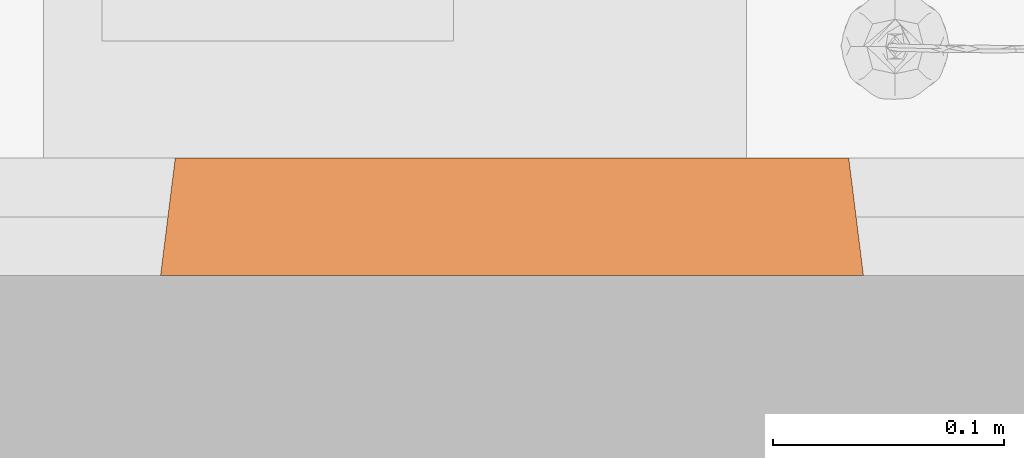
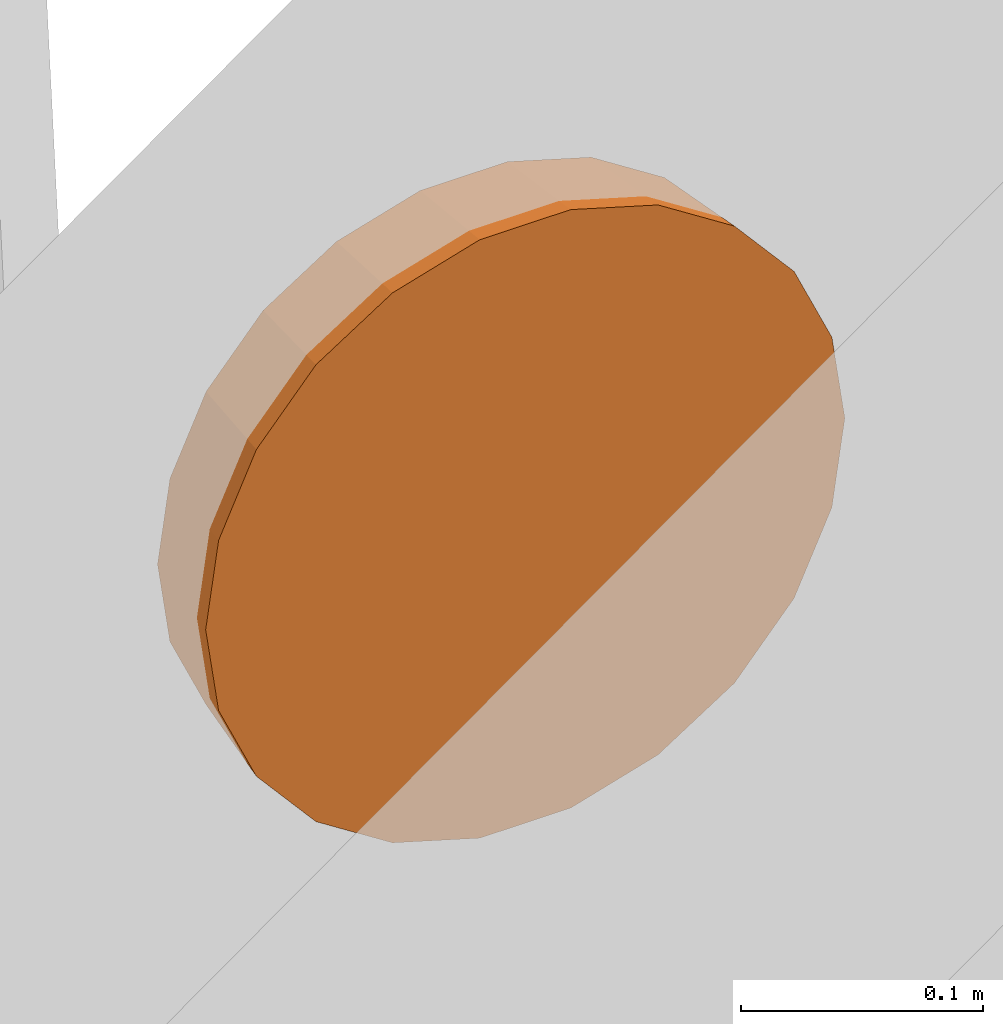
# One storey, part 90 of 142: 1 proxy.
"""IFC2X3 building model written with IfcOpenShell, lengths in feet."""

from ifc_helpers import new_model, entity, si_unit, converted_unit, derived_unit, direction, frame, origin, place, context, subcontext, project, spatial, faceted_brep, source, transform, mapped, type_object, type_shapes, element, save


model = new_model("IFC2X3")

# Units and contexts
model_context = context("Model", 3, precision=0.0001, world=origin(), true_north=direction((6.12303176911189e-17, 1.0)))
body_context = subcontext(model_context, "Body", "Model", "MODEL_VIEW")
ifc_project = project(units=[converted_unit("LENGTHUNIT", "FOOT", entity("IfcRatioMeasure", 0.3048), si_unit("LENGTHUNIT", "METRE"), dimensions=[1, 0, 0, 0, 0, 0, 0]), converted_unit("AREAUNIT", "SQUARE FOOT", entity("IfcRatioMeasure", 0.09290304), si_unit("AREAUNIT", "SQUARE_METRE"), dimensions=[2, 0, 0, 0, 0, 0, 0]), converted_unit("VOLUMEUNIT", "CUBIC FOOT", entity("IfcRatioMeasure", 0.028316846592), si_unit("VOLUMEUNIT", "CUBIC_METRE"), dimensions=[3, 0, 0, 0, 0, 0, 0]), converted_unit("PLANEANGLEUNIT", "DEGREE", entity("IfcRatioMeasure", 0.0174532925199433), si_unit("PLANEANGLEUNIT", "RADIAN"), dimensions=[0, 0, 0, 0, 0, 0, 0]), si_unit("MASSUNIT", "GRAM", prefix="KILO"), derived_unit("MASSDENSITYUNIT", [(si_unit("MASSUNIT", "GRAM", prefix="KILO"), 1), (si_unit("LENGTHUNIT", "METRE"), -3)]), si_unit("TIMEUNIT", "SECOND"), si_unit("FREQUENCYUNIT", "HERTZ"), si_unit("THERMODYNAMICTEMPERATUREUNIT", "DEGREE_CELSIUS"), derived_unit("THERMALTRANSMITTANCEUNIT", [(si_unit("MASSUNIT", "GRAM", prefix="KILO"), 1), (si_unit("THERMODYNAMICTEMPERATUREUNIT", "KELVIN"), -1), (si_unit("TIMEUNIT", "SECOND"), -3)]), derived_unit("VOLUMETRICFLOWRATEUNIT", [(si_unit("LENGTHUNIT", "METRE"), 3), (si_unit("TIMEUNIT", "SECOND"), -1)]), si_unit("ELECTRICCURRENTUNIT", "AMPERE"), si_unit("ELECTRICVOLTAGEUNIT", "VOLT"), si_unit("POWERUNIT", "WATT"), si_unit("FORCEUNIT", "NEWTON"), si_unit("ILLUMINANCEUNIT", "LUX"), si_unit("LUMINOUSFLUXUNIT", "LUMEN"), si_unit("LUMINOUSINTENSITYUNIT", "CANDELA"), derived_unit("USERDEFINED", [(si_unit("MASSUNIT", "GRAM", prefix="KILO"), -1), (si_unit("LENGTHUNIT", "METRE"), -2), (si_unit("TIMEUNIT", "SECOND"), 3), (si_unit("LUMINOUSFLUXUNIT", "LUMEN"), 1)]), derived_unit("LINEARVELOCITYUNIT", [(si_unit("LENGTHUNIT", "METRE"), 1), (si_unit("TIMEUNIT", "SECOND"), -1)]), si_unit("PRESSUREUNIT", "PASCAL"), derived_unit("USERDEFINED", [(si_unit("LENGTHUNIT", "METRE"), -2), (si_unit("MASSUNIT", "GRAM", prefix="KILO"), 1), (si_unit("TIMEUNIT", "SECOND"), -2)])], contexts=[model_context])

# Site, building, storey, space
site_placement = place(None, origin())
site = spatial("IfcSite", under=ifc_project, at=site_placement, Name="Default", CompositionType="ELEMENT")
building_placement = place(site_placement, origin())
building = spatial("IfcBuilding", under=site, at=building_placement, Name="OUTPATIENT / PACT CLINIC (Ch. 265)", CompositionType="ELEMENT")
storey_placement = place(building_placement, origin())
storey = spatial("IfcBuildingStorey", under=building, at=storey_placement, Name="LEVEL 1", CompositionType="ELEMENT", Elevation=0.0)
space_placement = place(storey_placement, origin())
space = spatial("IfcSpace", under=storey, at=space_placement, Name="EXW01", CompositionType="ELEMENT", InteriorOrExteriorSpace="INTERNAL")

# Proxy
building_element_proxy_type = type_object("IfcBuildingElementProxyType", Name="F3200 - Clock, Battery, 12in Dia", PredefinedType="NOTDEFINED")
shared_shape = source(origin(), body_context, "Body", "Brep", [
    faceted_brep([(0.0527623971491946, -0.166666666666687, -0.0087350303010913), (0.143371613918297, -0.166666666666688, 0.0607918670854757), (0.212898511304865, -0.16666666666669, 0.151401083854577), (0.256604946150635, -0.166666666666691, 0.256917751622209), (0.271512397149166, -0.166666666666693, 0.370151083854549), (0.256604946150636, -0.166666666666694, 0.483384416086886), (0.212898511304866, -0.166666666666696, 0.588901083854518), (0.143371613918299, -0.166666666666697, 0.67951030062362), (0.052762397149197, -0.166666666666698, 0.749037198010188), (-0.0527542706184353, -0.166666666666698, 0.792743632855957), (-0.165987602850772, -0.166666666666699, 0.807651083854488), (-0.279220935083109, -0.166666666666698, 0.792743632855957), (-0.384737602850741, -0.166666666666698, 0.749037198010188), (-0.475346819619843, -0.166666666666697, 0.679510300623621), (-0.544873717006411, -0.166666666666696, 0.588901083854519), (-0.588580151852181, -0.166666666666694, 0.483384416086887), (-0.603487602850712, -0.166666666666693, 0.37015108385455), (-0.588580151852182, -0.166666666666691, 0.256917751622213), (-0.544873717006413, -0.16666666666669, 0.151401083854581), (-0.475346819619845, -0.166666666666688, 0.0607918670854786), (-0.384737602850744, -0.166666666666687, -0.0087350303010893), (-0.279220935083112, -0.166666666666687, -0.052441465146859), (-0.165987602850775, -0.166666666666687, -0.0673489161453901), (-0.0527542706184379, -0.166666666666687, -0.0524414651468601), (0.256604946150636, -0.145833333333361, 0.483384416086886), (0.271512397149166, -0.145833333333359, 0.370151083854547), (0.256604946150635, -0.145833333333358, 0.256917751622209), (0.212898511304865, -0.145833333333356, 0.151401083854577), (0.143371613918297, -0.145833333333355, 0.0607918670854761), (0.0527623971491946, -0.145833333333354, -0.00873503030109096), (-0.0527542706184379, -0.145833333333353, -0.0524414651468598), (-0.165987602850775, -0.145833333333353, -0.0673489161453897), (-0.279220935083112, -0.145833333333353, -0.0524414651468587), (-0.384737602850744, -0.145833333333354, -0.00873503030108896), (-0.475346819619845, -0.145833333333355, 0.060791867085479), (-0.544873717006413, -0.145833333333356, 0.151401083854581), (-0.588580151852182, -0.145833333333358, 0.256917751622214), (-0.603487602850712, -0.145833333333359, 0.37015108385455), (-0.588580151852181, -0.145833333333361, 0.483384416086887), (-0.544873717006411, -0.145833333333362, 0.588901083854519), (-0.475346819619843, -0.145833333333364, 0.679510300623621), (-0.384737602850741, -0.145833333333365, 0.749037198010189), (-0.279220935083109, -0.145833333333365, 0.792743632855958), (-0.165987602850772, -0.145833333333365, 0.807651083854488), (-0.0527542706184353, -0.145833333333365, 0.792743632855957), (0.052762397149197, -0.145833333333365, 0.749037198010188), (0.143371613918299, -0.145833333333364, 0.67951030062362), (0.212898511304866, -0.145833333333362, 0.588901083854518)], [[[0, 1, 2, 3, 4, 5, 6, 7, 8, 9, 10, 11, 12, 13, 14, 15, 16, 17, 18, 19, 20, 21, 22, 23]], [[24, 25, 26, 27, 28, 29, 30, 31, 32, 33, 34, 35, 36, 37, 38, 39, 40, 41, 42, 43, 44, 45, 46, 47]], [[36, 17, 16, 37]], [[35, 18, 17, 36]], [[20, 19, 34, 33]], [[35, 34, 19, 18]], [[21, 20, 33, 32]], [[22, 21, 32, 31]], [[30, 23, 22, 31]], [[29, 0, 23, 30]], [[2, 1, 28, 27]], [[29, 28, 1, 0]], [[3, 2, 27, 26]], [[4, 3, 26, 25]], [[24, 5, 4, 25]], [[47, 6, 5, 24]], [[8, 7, 46, 45]], [[47, 46, 7, 6]], [[9, 8, 45, 44]], [[10, 9, 44, 43]], [[11, 10, 43, 42]], [[12, 11, 42, 41]], [[14, 39, 38, 15]], [[15, 38, 37, 16]], [[12, 41, 40, 13]], [[40, 39, 14, 13]]]),
    faceted_brep([(-0.493417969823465, 0.0, -0.00772370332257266), (-0.586614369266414, 0.0, 0.0998306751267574), (-0.165987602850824, 0.0, 0.370151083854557), (-0.373695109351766, 0.0, -0.0846649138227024), (-0.645734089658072, 0.0, 0.229284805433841), (-0.665987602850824, 0.0, 0.370151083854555), (-0.645734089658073, 0.0, 0.51101736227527), (-0.586614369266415, 0.0, 0.640471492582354), (-0.493417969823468, 0.0, 0.748025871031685), (-0.373695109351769, 0.0, 0.824967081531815), (-0.237145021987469, 0.0, 0.865061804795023), (-0.0948301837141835, 0.0, 0.865061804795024), (0.0417199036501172, 0.0, 0.824967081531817), (0.161442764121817, 0.0, 0.748025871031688), (0.254639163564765, 0.0, 0.640471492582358), (0.313758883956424, 0.0, 0.511017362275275), (0.334012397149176, 0.0, 0.370151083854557), (0.313758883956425, 0.0, 0.229284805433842), (0.254639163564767, 0.0, 0.0998306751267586), (0.161442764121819, 0.0, -0.00772370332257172), (0.0417199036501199, 0.0, -0.0846649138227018), (-0.0948301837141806, 0.0, -0.124759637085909), (-0.237145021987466, 0.0, -0.124759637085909), (-0.165987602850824, -0.145833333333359, 0.370151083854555), (-0.534036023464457, -0.145833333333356, 0.133620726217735), (-0.452489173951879, -0.145833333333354, 0.0395106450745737), (-0.585765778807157, -0.145833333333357, 0.246893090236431), (-0.347731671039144, -0.145833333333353, -0.0278129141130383), (-0.228250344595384, -0.145833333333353, -0.0628957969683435), (-0.603487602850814, -0.145833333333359, 0.370151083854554), (-0.103724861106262, -0.145833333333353, -0.0628957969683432), (0.0157564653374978, -0.145833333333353, -0.0278129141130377), (0.120513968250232, -0.145833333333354, 0.0395106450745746), (0.20206081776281, -0.145833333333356, 0.133620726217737), (0.253790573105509, -0.145833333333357, 0.246893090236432), (0.271512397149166, -0.145833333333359, 0.370151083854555), (-0.585765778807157, -0.145833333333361, 0.493409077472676), (-0.534036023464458, -0.145833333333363, 0.606681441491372), (-0.452489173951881, -0.145833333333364, 0.700791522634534), (-0.347731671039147, -0.145833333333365, 0.768115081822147), (-0.228250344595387, -0.145833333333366, 0.803197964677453), (0.253790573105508, -0.145833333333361, 0.49340907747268), (0.202060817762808, -0.145833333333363, 0.606681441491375), (0.12051396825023, -0.145833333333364, 0.700791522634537), (0.0157564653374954, -0.145833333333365, 0.768115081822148), (-0.103724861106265, -0.145833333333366, 0.803197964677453), (0.253790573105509, -0.166666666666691, 0.246893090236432), (0.271512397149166, -0.166666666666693, 0.370151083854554), (0.20206081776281, -0.166666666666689, 0.133620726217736), (-0.103724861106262, -0.166666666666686, -0.0628957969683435), (0.0157564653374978, -0.166666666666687, -0.0278129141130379), (0.120513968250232, -0.166666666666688, 0.0395106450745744), (-0.228250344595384, -0.166666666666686, -0.0628957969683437), (-0.452489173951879, -0.166666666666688, 0.0395106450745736), (-0.347731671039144, -0.166666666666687, -0.0278129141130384), (-0.603487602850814, -0.166666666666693, 0.370151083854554), (-0.585765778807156, -0.166666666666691, 0.246893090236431), (-0.534036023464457, -0.166666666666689, 0.133620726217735), (-0.585765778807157, -0.166666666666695, 0.493409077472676), (-0.534036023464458, -0.166666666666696, 0.606681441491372), (-0.347731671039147, -0.166666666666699, 0.768115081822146), (-0.452489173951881, -0.166666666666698, 0.700791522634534), (-0.228250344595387, -0.166666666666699, 0.803197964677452), (-0.103724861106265, -0.166666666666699, 0.803197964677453), (0.0157564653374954, -0.166666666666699, 0.768115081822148), (0.12051396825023, -0.166666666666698, 0.700791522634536), (0.253790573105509, -0.166666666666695, 0.493409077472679), (0.202060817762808, -0.166666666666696, 0.606681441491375), (-0.62574465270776, -0.166666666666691, 0.235154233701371), (-0.64515426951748, -0.166666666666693, 0.370151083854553), (-0.569088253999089, -0.166666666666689, 0.111094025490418), (-0.479775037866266, -0.166666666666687, 0.00802107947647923), (-0.365040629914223, -0.166666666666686, -0.0657142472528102), (-0.234180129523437, -0.166666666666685, -0.104138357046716), (-0.0977950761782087, -0.166666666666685, -0.104138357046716), (0.0330654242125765, -0.166666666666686, -0.0657142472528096), (0.147799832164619, -0.166666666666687, 0.00802107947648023), (0.237113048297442, -0.166666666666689, 0.11109402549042), (0.293769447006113, -0.166666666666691, 0.235154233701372), (0.313179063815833, -0.166666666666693, 0.370151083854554), (0.293769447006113, -0.166666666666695, 0.50514793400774), (0.237113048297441, -0.166666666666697, 0.629208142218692), (0.147799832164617, -0.166666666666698, 0.732281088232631), (0.0330654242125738, -0.1666666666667, 0.80601641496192), (-0.0977950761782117, -0.1666666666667, 0.844440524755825), (-0.23418012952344, -0.1666666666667, 0.844440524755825), (-0.365040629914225, -0.1666666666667, 0.806016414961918), (-0.479775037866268, -0.166666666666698, 0.732281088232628), (-0.569088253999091, -0.166666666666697, 0.629208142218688), (-0.625744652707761, -0.166666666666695, 0.505147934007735)], [[[0, 1, 2]], [[0, 2, 3]], [[4, 2, 1]], [[2, 4, 5]], [[5, 6, 2]], [[2, 6, 7]], [[2, 7, 8]], [[2, 8, 9]], [[9, 10, 2]], [[11, 2, 10]], [[2, 11, 12]], [[2, 12, 13]], [[14, 2, 13]], [[2, 14, 15]], [[15, 16, 2]], [[2, 16, 17]], [[2, 17, 18]], [[18, 19, 2]], [[19, 20, 2]], [[21, 2, 20]], [[2, 21, 22]], [[22, 3, 2]], [[23, 24, 25]], [[24, 23, 26]], [[27, 23, 25]], [[23, 27, 28]], [[29, 26, 23]], [[28, 30, 23]], [[31, 23, 30]], [[23, 31, 32]], [[23, 32, 33]], [[33, 34, 23]], [[34, 35, 23]], [[23, 36, 29]], [[37, 36, 23]], [[38, 37, 23]], [[39, 38, 23]], [[23, 40, 39]], [[23, 35, 41]], [[41, 42, 23]], [[43, 23, 42]], [[43, 44, 23]], [[44, 45, 23]], [[40, 23, 45]], [[46, 47, 35, 34]], [[46, 34, 33, 48]], [[31, 30, 49, 50]], [[32, 31, 50, 51]], [[51, 48, 33, 32]], [[30, 28, 52, 49]], [[27, 25, 53, 54]], [[28, 27, 54, 52]], [[29, 55, 56, 26]], [[26, 56, 57, 24]], [[24, 57, 53, 25]], [[55, 29, 36, 58]], [[58, 36, 37, 59]], [[60, 61, 38, 39]], [[59, 37, 38, 61]], [[39, 40, 62, 60]], [[40, 45, 63, 62]], [[64, 63, 45, 44]], [[64, 44, 43, 65]], [[41, 35, 47, 66]], [[42, 41, 66, 67]], [[67, 65, 43, 42]], [[68, 55, 69]], [[56, 55, 68]], [[68, 70, 56]], [[70, 57, 56]], [[71, 57, 70]], [[57, 71, 53]], [[72, 53, 71]], [[54, 53, 72]], [[72, 73, 54]], [[73, 52, 54]], [[49, 52, 73]], [[73, 74, 49]], [[74, 50, 49]], [[75, 50, 74]], [[50, 75, 51]], [[76, 51, 75]], [[48, 51, 76]], [[76, 77, 48]], [[77, 46, 48]], [[78, 46, 77]], [[46, 78, 47]], [[78, 79, 47]], [[79, 80, 47]], [[66, 47, 80]], [[80, 81, 66]], [[66, 81, 67]], [[82, 67, 81]], [[67, 82, 65]], [[65, 82, 83]], [[64, 65, 83]], [[83, 84, 64]], [[64, 84, 63]], [[85, 63, 84]], [[63, 85, 62]], [[62, 85, 60]], [[86, 60, 85]], [[60, 86, 61]], [[61, 86, 87]], [[59, 61, 87]], [[87, 88, 59]], [[59, 88, 58]], [[89, 58, 88]], [[55, 89, 69]], [[58, 89, 55]], [[78, 17, 16, 79]], [[77, 18, 17, 78]], [[19, 76, 75, 20]], [[77, 76, 19, 18]], [[20, 75, 74, 21]], [[74, 73, 22, 21]], [[22, 73, 72, 3]], [[0, 3, 72, 71]], [[4, 1, 70, 68]], [[70, 1, 0, 71]], [[5, 4, 68, 69]], [[89, 6, 5, 69]], [[88, 7, 6, 89]], [[8, 87, 86, 9]], [[88, 87, 8, 7]], [[9, 86, 85, 10]], [[85, 84, 11, 10]], [[83, 12, 11, 84]], [[82, 13, 12, 83]], [[14, 81, 80, 15]], [[82, 81, 14, 13]], [[15, 80, 79, 16]]]),
])
type_shapes(building_element_proxy_type, [shared_shape])
proxy_placement = place(space_placement, frame((438.088990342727, -931.467383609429, 6.5), z_axis=(0.0, 0.0, 1.0), x_axis=(-1.0, 0.0, 0.0)))
element("IfcBuildingElementProxy", 1, at=proxy_placement, inside=space, type_object=building_element_proxy_type, Name="F3200 - Clock, Battery, 12in Dia:F3200 - Clock, Battery, 12in Dia", ObjectType="F3200 - Clock, Battery, 12in Dia", context=body_context, shape_type="MappedRepresentation", body=[
    mapped(shared_shape, transform((0.0, 0.0, 0.0), scale=1.0)),
])

save(model, "model.ifc")
